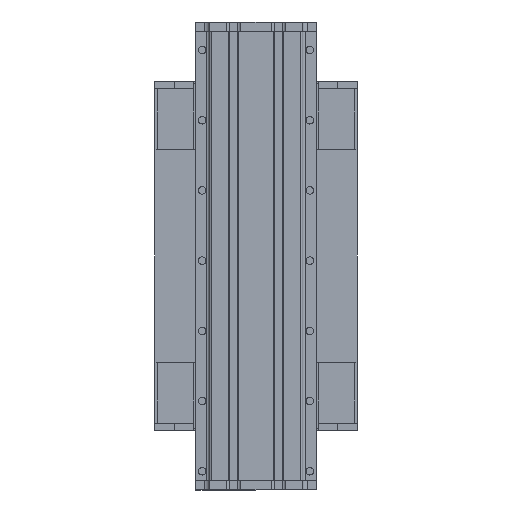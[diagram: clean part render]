
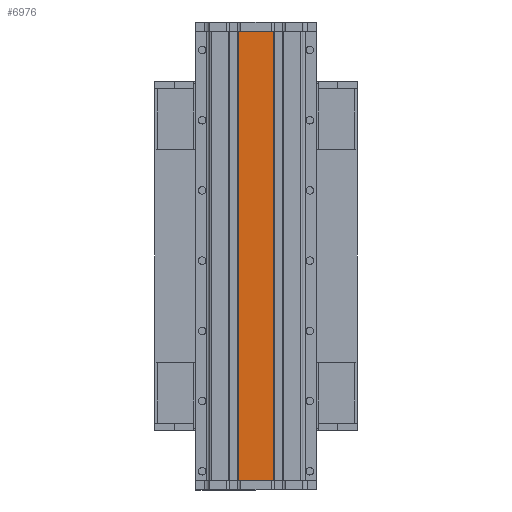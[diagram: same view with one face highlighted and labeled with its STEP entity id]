
A CAD part, front view. The second image highlights one B-rep face of the part: STEP entity #6976.
In plain terms, the highlighted planar face has unit normal (0, -1, 0).
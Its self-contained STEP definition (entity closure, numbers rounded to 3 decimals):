
#79 = CARTESIAN_POINT ( 'NONE',  ( 0., 0., 480. ) ) ;
#574 = VECTOR ( 'NONE', #4948, 1000. ) ;
#1008 = VECTOR ( 'NONE', #1575, 1000. ) ;
#1174 = DIRECTION ( 'NONE',  ( 0., 0., 1. ) ) ;
#1575 = DIRECTION ( 'NONE',  ( 0., 0., -1. ) ) ;
#1833 = VERTEX_POINT ( 'NONE', #11919 ) ;
#2250 = CARTESIAN_POINT ( 'NONE',  ( -38., 0., 480. ) ) ;
#3253 = DIRECTION ( 'NONE',  ( 1., 0., 0. ) ) ;
#4262 = DIRECTION ( 'NONE',  ( 1., 0., 0. ) ) ;
#4277 = EDGE_CURVE ( 'NONE', #5301, #1833, #5714, .T. ) ;
#4573 = EDGE_CURVE ( 'NONE', #9770, #1833, #7659, .T. ) ;
#4590 = ORIENTED_EDGE ( 'NONE', *, *, #4573, .T. ) ;
#4948 = DIRECTION ( 'NONE',  ( 0., 0., -1. ) ) ;
#5301 = VERTEX_POINT ( 'NONE', #5992 ) ;
#5714 = LINE ( 'NONE', #9781, #1008 ) ;
#5781 = LINE ( 'NONE', #9850, #14653 ) ;
#5844 = CARTESIAN_POINT ( 'NONE',  ( -38., 0., -480. ) ) ;
#5984 = ORIENTED_EDGE ( 'NONE', *, *, #17215, .T. ) ;
#5992 = CARTESIAN_POINT ( 'NONE',  ( 38., 0., 480. ) ) ;
#6036 = CARTESIAN_POINT ( 'NONE',  ( 0., 0., -480. ) ) ;
#6430 = VERTEX_POINT ( 'NONE', #12859 ) ;
#6976 = ADVANCED_FACE ( 'NONE', ( #12087 ), #10635, .F. ) ;
#7659 = LINE ( 'NONE', #6036, #15417 ) ;
#8032 = DIRECTION ( 'NONE',  ( 0., 1., 0. ) ) ;
#8308 = EDGE_CURVE ( 'NONE', #6430, #5301, #5781, .T. ) ;
#9770 = VERTEX_POINT ( 'NONE', #5844 ) ;
#9781 = CARTESIAN_POINT ( 'NONE',  ( 38., 0., 480. ) ) ;
#9850 = CARTESIAN_POINT ( 'NONE',  ( 0., 0., 480. ) ) ;
#10630 = LINE ( 'NONE', #2250, #574 ) ;
#10635 = PLANE ( 'NONE',  #17476 ) ;
#10864 = EDGE_LOOP ( 'NONE', ( #4590, #17491, #16927, #5984 ) ) ;
#11919 = CARTESIAN_POINT ( 'NONE',  ( 38., 0., -480. ) ) ;
#12087 = FACE_OUTER_BOUND ( 'NONE', #10864, .T. ) ;
#12859 = CARTESIAN_POINT ( 'NONE',  ( -38., 0., 480. ) ) ;
#14653 = VECTOR ( 'NONE', #4262, 1000. ) ;
#15417 = VECTOR ( 'NONE', #3253, 1000. ) ;
#16927 = ORIENTED_EDGE ( 'NONE', *, *, #8308, .F. ) ;
#17215 = EDGE_CURVE ( 'NONE', #6430, #9770, #10630, .T. ) ;
#17476 = AXIS2_PLACEMENT_3D ( 'NONE', #79, #8032, #1174 ) ;
#17491 = ORIENTED_EDGE ( 'NONE', *, *, #4277, .F. ) ;
